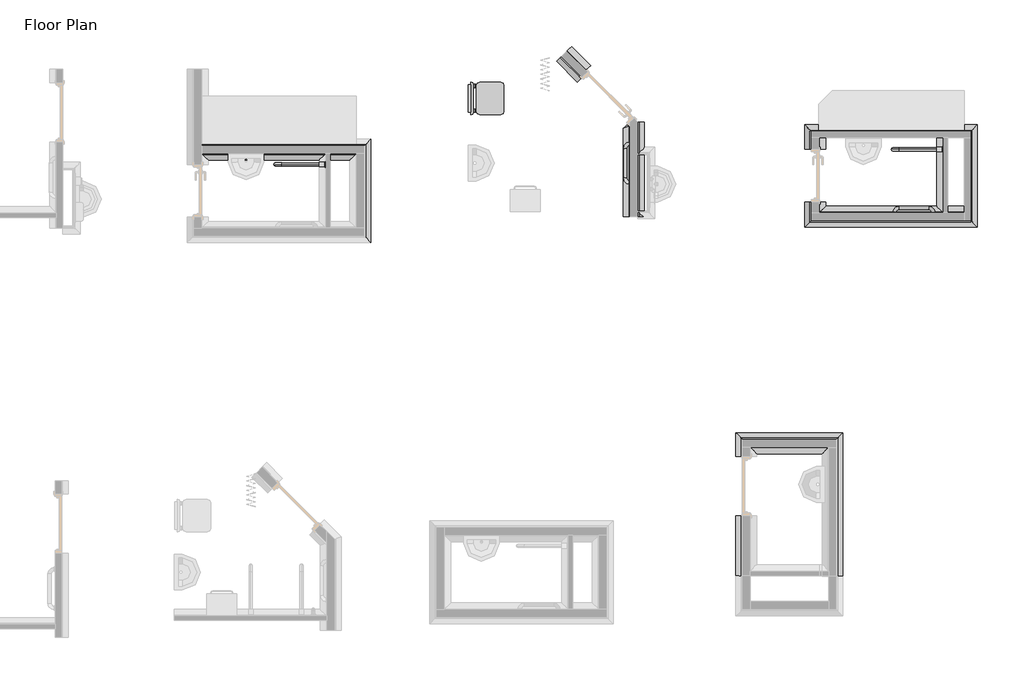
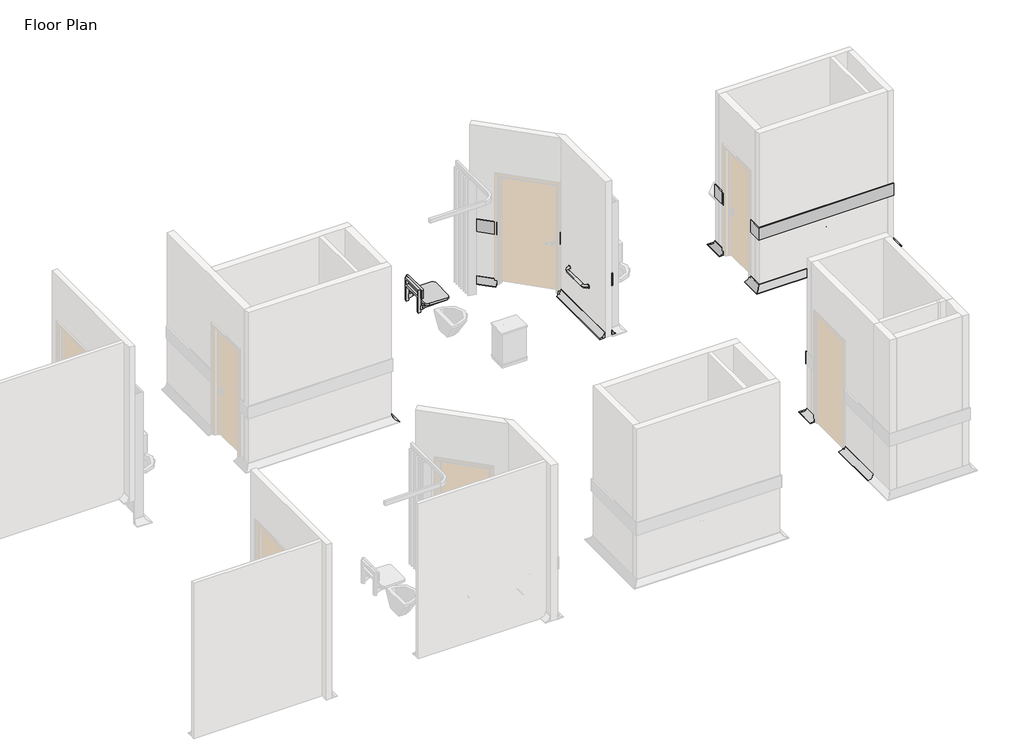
# One storey, part 4 of 4: 28 proxies.
"""IFC4 building model written with IfcOpenShell, lengths in millimetres."""

from ifc_helpers import new_model, si_unit, point, frame, frame_2d, origin, place, context, project, spatial, polyline, circle_curve, ellipse_curve, trimmed, segment, composite_curve, outline, extrude, transform, mapped, element, save
from ifc_brep_helpers import plane_surface, revolved_surface, advanced_brep
from components import generic_models_2748bf89, generic_models_79982e2d, type_1_5029713c

model = new_model("IFC4")

# Units and contexts
model_context = context("Model", 3, world=origin())
ifc_project = project(units=[si_unit("LENGTHUNIT", "METRE", prefix="MILLI")], contexts=[model_context])

# Site, building, storey
site = spatial("IfcSite", under=ifc_project)
building = spatial("IfcBuilding", under=site)
storey = spatial("IfcBuildingStorey", under=building, Name="Floor Plan", Elevation=0.0)

# Proxies
placement = place(None, origin())
element("IfcBuildingElementProxy", 1, Name="Wall Sweeps", at=placement, inside=storey, context=model_context, shape_type="AdvancedBrep", body=[
    advanced_brep(
    [(51772.6778474, -14972.1150189, 0.0), (51672.6778474, -14872.1150189, 0.0), (51672.6778474, -14872.1150189, 10.0), (51762.6778474, -14962.1150189, 100.0), (51772.6778474, -14972.1150189, 100.0), (51772.6778474, -15233.6150189, 0.0), (51772.6778474, -15233.6150189, 100.0), (51762.6778474, -15233.6150189, 100.0), (51672.6778474, -15233.6150189, 10.0), (51672.6778474, -15233.6150189, 0.0), (51772.6778474, -15093.6150189, 0.0)],
    [
        (0, 1),
        (1, 2),
        (2, 3, ellipse_curve(frame((51672.6778474, -14872.1150189, 100.0), z_axis=(-0.707106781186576, -0.7071067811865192, 0.0), x_axis=(0.7071067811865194, -0.7071067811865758, 0.0)), 127.2792206, 90.0)),
        (3, 4),
        (4, 0),
        (5, 6),
        (6, 7),
        (7, 8, circle_curve(frame((51672.6778474, -15233.6150189, 100.0), z_axis=(0.0, 1.0, 0.0), x_axis=(-1.0, 0.0, 0.0)), 90.0)),
        (8, 9),
        (9, 5),
        (4, 6),
        (5, 10),
        (10, 0),
        (3, 7),
        (2, 8),
        (1, 9),
    ],
    [
        plane_surface(frame((51772.6778474, -14972.1150189, -304.8), z_axis=(0.707106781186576, 0.7071067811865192, 0.0), x_axis=(0.7071067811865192, -0.707106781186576, 0.0))),
        plane_surface(frame((51672.1790911, -15233.6150189, 0.0), z_axis=(0.0, -1.0, 0.0), x_axis=(0.0, 0.0, -1.0))),
        plane_surface(frame((51772.6778474, -14972.1150189, 100.0), z_axis=(1.0, 0.0, 0.0), x_axis=(0.0, -1.0, 0.0))),
        plane_surface(frame((51762.6778474, -14962.1150189, 100.0), z_axis=(0.0, 0.0, 1.0), x_axis=(0.0, -1.0, 0.0))),
        revolved_surface(polyline([(51582.6778474, -15233.6150189, 100.0), (51582.6778474, -14782.115018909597, 100.0)]), (51672.6778474, -14972.1150189, 100.0), (0.0, -1.0, 0.0)),
        plane_surface(frame((51672.6778474, -14872.1150189, 0.0), z_axis=(-1.0, 0.0, 0.0), x_axis=(0.0, -1.0, 0.0))),
        plane_surface(frame((51772.6778474, -14972.1150189, 0.0), z_axis=(0.0, 0.0, -1.0), x_axis=(0.0, -1.0, 0.0))),
    ],
    [
        (0, [[1, 2, 3, 4, 5]]),
        (1, [[6, 7, 8, 9, 10]]),
        (2, [[-5, 11, -6, 12, 13]]),
        (3, [[-4, 14, -7, -11]]),
        (4, [[-3, 15, -8, -14]]),
        (5, [[-2, 16, -9, -15]]),
        (6, [[-1, -13, -12, -10, -16]]),
    ],
),
    advanced_brep(
    [(51772.6778474, -16143.6150189, 0.0), (51672.6778474, -16143.6150189, 0.0), (51672.6778474, -16143.6150189, 10.0), (51762.6778474, -16143.6150189, 100.0), (51772.6778474, -16143.6150189, 100.0), (51772.6778474, -17067.8650189, 0.0), (51772.6778474, -17067.8650189, 100.0), (51762.6778474, -17067.8650189, 100.0), (51672.6778474, -17067.8650189, 10.0), (51672.6778474, -17067.8650189, 0.0)],
    [
        (0, 1),
        (1, 2),
        (2, 3, circle_curve(frame((51672.6778474, -16143.6150189, 100.0), z_axis=(0.0, -1.0, 0.0), x_axis=(-1.0, 0.0, 0.0)), 90.0)),
        (3, 4),
        (4, 0),
        (5, 6),
        (6, 7),
        (7, 8, circle_curve(frame((51672.6778474, -17067.8650189, 100.0), z_axis=(0.0, 1.0, 0.0), x_axis=(-1.0, 0.0, 0.0)), 90.0)),
        (8, 9),
        (9, 5),
        (0, 5),
        (9, 1),
        (8, 2),
        (7, 3),
        (6, 4),
    ],
    [
        plane_surface(frame((51672.1790911, -16143.6150189, 0.0), z_axis=(0.0, 1.0, 0.0), x_axis=(0.0, 0.0, -1.0))),
        plane_surface(frame((51772.6778474, -17067.8650189, -304.8), z_axis=(0.0, -1.0, 0.0), x_axis=(1.0, 0.0, 0.0))),
        plane_surface(frame((51772.6778474, -16143.6150189, 0.0), z_axis=(0.0, 0.0, -1.0), x_axis=(0.0, -1.0, 0.0))),
        plane_surface(frame((51672.6778474, -16143.6150189, 0.0), z_axis=(-1.0, 0.0, 0.0), x_axis=(0.0, -1.0, 0.0))),
        revolved_surface(polyline([(51582.6778474, -17067.8650189, 100.0), (51582.6778474, -16143.6150189, 100.0)]), (51672.6778474, -16143.6150189, 100.0), (0.0, -1.0, 0.0)),
        plane_surface(frame((51762.6778474, -16143.6150189, 100.0), z_axis=(0.0, 0.0, 1.0), x_axis=(0.0, -1.0, 0.0))),
        plane_surface(frame((51772.6778474, -16143.6150189, 100.0), z_axis=(1.0, 0.0, 0.0), x_axis=(0.0, -1.0, 0.0))),
    ],
    [
        (0, [[1, 2, 3, 4, 5]]),
        (1, [[6, 7, 8, 9, 10]]),
        (2, [[-1, 11, -10, 12]]),
        (3, [[-2, -12, -9, 13]]),
        (4, [[-3, -13, -8, 14]]),
        (5, [[-4, -14, -7, 15]]),
        (6, [[-5, -15, -6, -11]]),
    ],
),
])
element("IfcBuildingElementProxy", 2, Name="Wall Sweeps", at=placement, inside=storey, context=model_context, shape_type="AdvancedBrep", body=[
    advanced_brep(
    [(51772.6778474, -14972.1150189, 0.0), (51772.6778474, -14972.1150189, 100.0), (51762.6778474, -14962.1150189, 100.0), (51672.6778474, -14872.1150189, 10.0), (51672.6778474, -14872.1150189, 0.0), (53215.6778474, -14972.1150189, 0.0), (53315.6778474, -14872.1150189, 0.0), (53315.6778474, -14872.1150189, 10.0), (53225.6778474, -14962.1150189, 100.0), (53215.6778474, -14972.1150189, 100.0)],
    [
        (0, 1),
        (1, 2),
        (2, 3, ellipse_curve(frame((51672.6778474, -14872.1150189, 100.0), z_axis=(0.707106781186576, 0.7071067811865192, 0.0), x_axis=(0.7071067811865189, -0.7071067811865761, 0.0)), 127.2792206, 90.0)),
        (3, 4),
        (4, 0),
        (5, 6),
        (6, 7),
        (7, 8, ellipse_curve(frame((53315.6778474, -14872.1150189, 100.0), z_axis=(-0.7071067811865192, 0.707106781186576, 0.0), x_axis=(0.7071067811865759, 0.7071067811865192, 0.0)), 127.2792206, 90.0)),
        (8, 9),
        (9, 5),
        (0, 5),
        (9, 1),
        (8, 2),
        (7, 3),
        (6, 4),
    ],
    [
        plane_surface(frame((51772.6778474, -14972.1150189, 304.8), z_axis=(-0.707106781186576, -0.7071067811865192, 0.0), x_axis=(0.7071067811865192, -0.707106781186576, 0.0))),
        plane_surface(frame((53215.6778474, -14972.1150189, 304.8), z_axis=(0.7071067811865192, -0.707106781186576, 0.0), x_axis=(-0.707106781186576, -0.7071067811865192, 0.0))),
        plane_surface(frame((51772.6778474, -14972.1150189, 0.0), z_axis=(0.0, -1.0, 0.0), x_axis=(1.0, 0.0, 0.0))),
        plane_surface(frame((51772.6778474, -14972.1150189, 100.0), z_axis=(0.0, 0.0, 1.0), x_axis=(1.0, 0.0, 0.0))),
        revolved_surface(polyline([(53405.677847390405, -14782.1150189, 100.0), (51582.677847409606, -14782.1150189, 100.0)]), (51772.6778474, -14872.1150189, 100.0), (1.0, 0.0, 0.0)),
        plane_surface(frame((51672.6778474, -14872.1150189, 10.0), z_axis=(0.0, 1.0, 0.0), x_axis=(1.0, 0.0, 0.0))),
        plane_surface(frame((51672.6778474, -14872.1150189, 0.0), z_axis=(0.0, 0.0, -1.0), x_axis=(1.0, 0.0, 0.0))),
    ],
    [
        (0, [[1, 2, 3, 4, 5]]),
        (1, [[6, 7, 8, 9, 10]]),
        (2, [[-1, 11, -10, 12]]),
        (3, [[-2, -12, -9, 13]]),
        (4, [[-3, -13, -8, 14]]),
        (5, [[-4, -14, -7, 15]]),
        (6, [[-5, -15, -6, -11]]),
    ],
),
])
element("IfcBuildingElementProxy", 3, Name="Wall Sweeps", at=placement, inside=storey, context=model_context, shape_type="AdvancedBrep", body=[
    advanced_brep(
    [(51894.1778474, -15093.6150189, 0.0), (51994.1778474, -15193.6150189, 0.0), (51994.1778474, -15193.6150189, 10.0), (51904.1778474, -15103.6150189, 100.0), (51894.1778474, -15093.6150189, 100.0), (53094.1778474, -15093.6150189, 0.0), (53094.1778474, -15093.6150189, 100.0), (53084.1778474, -15103.6150189, 100.0), (52994.1778474, -15193.6150189, 10.0), (52994.1778474, -15193.6150189, 0.0)],
    [
        (0, 1),
        (1, 2),
        (2, 3, ellipse_curve(frame((51994.1778474, -15193.6150189, 100.0), z_axis=(0.707106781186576, 0.7071067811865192, 0.0), x_axis=(0.7071067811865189, -0.7071067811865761, 0.0)), 127.2792206, 90.0)),
        (3, 4),
        (4, 0),
        (5, 6),
        (6, 7),
        (7, 8, ellipse_curve(frame((52994.1778474, -15193.6150189, 100.0), z_axis=(-0.7071067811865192, 0.707106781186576, 0.0), x_axis=(0.7071067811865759, 0.7071067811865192, 0.0)), 127.2792206, 90.0)),
        (8, 9),
        (9, 5),
        (0, 5),
        (9, 1),
        (8, 2),
        (7, 3),
        (6, 4),
    ],
    [
        plane_surface(frame((51894.1778474, -15093.6150189, 304.8), z_axis=(-0.707106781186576, -0.7071067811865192, 0.0), x_axis=(0.7071067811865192, -0.707106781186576, 0.0))),
        plane_surface(frame((53094.1778474, -15093.6150189, 304.8), z_axis=(0.7071067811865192, -0.707106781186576, 0.0), x_axis=(-0.707106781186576, -0.7071067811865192, 0.0))),
        plane_surface(frame((51894.1778474, -15093.6150189, 0.0), z_axis=(0.0, 0.0, -1.0), x_axis=(1.0, 0.0, 0.0))),
        plane_surface(frame((51994.1778474, -15193.6150189, 0.0), z_axis=(0.0, -1.0, 0.0), x_axis=(1.0, 0.0, 0.0))),
        revolved_surface(polyline([(53084.1778474, -15283.6150189, 100.0), (51904.1778474, -15283.6150189, 100.0)]), (51894.1778474, -15193.6150189, 100.0), (1.0, 0.0, 0.0)),
        plane_surface(frame((51904.1778474, -15103.6150189, 100.0), z_axis=(0.0, 0.0, 1.0), x_axis=(1.0, 0.0, 0.0))),
        plane_surface(frame((51894.1778474, -15093.6150189, 100.0), z_axis=(0.0, 1.0, 0.0), x_axis=(1.0, 0.0, 0.0))),
    ],
    [
        (0, [[1, 2, 3, 4, 5]]),
        (1, [[6, 7, 8, 9, 10]]),
        (2, [[-1, 11, -10, 12]]),
        (3, [[-2, -12, -9, 13]]),
        (4, [[-3, -13, -8, 14]]),
        (5, [[-4, -14, -7, 15]]),
        (6, [[-5, -15, -6, -11]]),
    ],
),
])
element("IfcBuildingElementProxy", 4, Name="Wall Sweeps", at=placement, inside=storey, context=model_context, shape_type="SweptSolid", body=[
    extrude(outline(polyline([(51772.6778474, -14972.1150189), (51753.6778474, -14953.1150189), (53234.6778474, -14953.1150189), (53215.6778474, -14972.1150189), (51772.6778474, -14972.1150189)])), frame((0.0, 0.0, 965.0), z_axis=(0.0, 0.0, 1.0), x_axis=(1.0, 0.0, 0.0)), (0.0, 0.0, 1.0), 235.0),
])
element("IfcBuildingElementProxy", 5, Name="Wall Sweeps", at=placement, inside=storey, context=model_context, shape_type="AdvancedBrep", body=[
    advanced_brep(
    [(53215.6778474, -17073.6150189, 0.0), (53315.6778474, -17073.6150189, 0.0), (53315.6778474, -17073.6150189, 10.0), (53225.6778474, -17073.6150189, 100.0), (53215.6778474, -17073.6150189, 100.0), (53215.6778474, -14972.1150189, 0.0), (53215.6778474, -14972.1150189, 100.0), (53225.6778474, -14962.1150189, 100.0), (53315.6778474, -14872.1150189, 10.0), (53315.6778474, -14872.1150189, 0.0), (53215.6778474, -15093.6150189, 0.0)],
    [
        (0, 1),
        (1, 2),
        (2, 3, circle_curve(frame((53315.6778474, -17073.6150189, 100.0), z_axis=(0.0, 1.0, 0.0), x_axis=(1.0, 0.0, 0.0)), 90.0)),
        (3, 4),
        (4, 0),
        (5, 6),
        (6, 7),
        (7, 8, ellipse_curve(frame((53315.6778474, -14872.1150189, 100.0), z_axis=(0.7071067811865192, -0.707106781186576, 0.0), x_axis=(0.707106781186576, 0.7071067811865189, 0.0)), 127.2792206, 90.0)),
        (8, 9),
        (9, 5),
        (0, 10),
        (10, 5),
        (9, 1),
        (8, 2),
        (7, 3),
        (6, 4),
    ],
    [
        plane_surface(frame((53215.6778474, -17073.6150189, 304.8), z_axis=(0.0, -1.0, 0.0), x_axis=(1.0, 0.0, 0.0))),
        plane_surface(frame((53215.6778474, -14972.1150189, -304.8), z_axis=(-0.7071067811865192, 0.707106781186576, 0.0), x_axis=(-0.707106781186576, -0.7071067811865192, 0.0))),
        plane_surface(frame((53215.6778474, -17073.6150189, 0.0), z_axis=(0.0, 0.0, -1.0), x_axis=(0.0, 1.0, 0.0))),
        plane_surface(frame((53315.6778474, -17073.6150189, 0.0), z_axis=(1.0, 0.0, 0.0), x_axis=(0.0, 1.0, 0.0))),
        revolved_surface(polyline([(53405.6778474, -14782.115018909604, 100.0), (53405.6778474, -17073.6150189, 100.0)]), (53315.6778474, -17073.6150189, 100.0), (0.0, 1.0, 0.0)),
        plane_surface(frame((53225.6778474, -17073.6150189, 100.0), z_axis=(0.0, 0.0, 1.0), x_axis=(0.0, 1.0, 0.0))),
        plane_surface(frame((53215.6778474, -17073.6150189, 100.0), z_axis=(-1.0, 0.0, 0.0), x_axis=(0.0, 1.0, 0.0))),
    ],
    [
        (0, [[1, 2, 3, 4, 5]]),
        (1, [[6, 7, 8, 9, 10]]),
        (2, [[-1, 11, 12, -10, 13]]),
        (3, [[-2, -13, -9, 14]]),
        (4, [[-3, -14, -8, 15]]),
        (5, [[-4, -15, -7, 16]]),
        (6, [[-5, -16, -6, -12, -11]]),
    ],
),
])
element("IfcBuildingElementProxy", 6, Name="Wall Sweeps", at=placement, inside=storey, context=model_context, shape_type="SweptSolid", body=[
    extrude(outline(composite_curve([segment(polyline([(0.0, 50168.9980708), (0.0, 50268.9980708), (10.0, 50268.9980708)]), True, "CONTINUOUS"), segment(trimmed(circle_curve(frame_2d((100.0, 50268.9980708)), 90.0), [point((10.0, 50268.9980708))], [point((100.0, 50178.9980708))], True, "CARTESIAN"), True, "CONTINUOUS"), segment(polyline([(100.0, 50178.9980708), (100.0, 50168.9980708), (0.0, 50168.9980708)]), True, "CONTINUOUS")], self_intersect=False)), frame((0.0, -11553.3684808, 0.0), z_axis=(0.0, 1.0, 0.0), x_axis=(0.0, 0.0, 1.0)), (0.0, 0.0, 1.0), 1453.1634739),
])
element("IfcBuildingElementProxy", 7, Name="Wall Sweeps", at=placement, inside=storey, context=model_context, shape_type="AdvancedBrep", body=[
    advanced_brep(
    [(50047.4980708, -10150.5319547, 0.0), (49947.4980708, -10191.9533109, 0.0), (49947.4980708, -10191.9533109, 10.0), (50037.4980708, -10154.6740903, 100.0), (50047.4980708, -10150.5319547, 100.0), (50047.4980708, -11553.3684808, 0.0), (50047.4980708, -11553.3684808, 100.0), (50037.4980708, -11553.3684808, 100.0), (49947.4980708, -11553.3684808, 10.0), (49947.4980708, -11553.3684808, 0.0)],
    [
        (0, 1),
        (1, 2),
        (2, 3, ellipse_curve(frame((49947.4980708, -10191.9533109, 100.0), z_axis=(0.3826834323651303, -0.92387953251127, 0.0), x_axis=(-0.92387953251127, -0.3826834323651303, 0.0)), 97.415298, 90.0)),
        (3, 4),
        (4, 0),
        (5, 6),
        (6, 7),
        (7, 8, circle_curve(frame((49947.4980708, -11553.3684808, 100.0), z_axis=(0.0, 1.0, 0.0), x_axis=(-1.0, 0.0, 0.0)), 90.0)),
        (8, 9),
        (9, 5),
        (0, 5),
        (9, 1),
        (8, 2),
        (7, 3),
        (6, 4),
    ],
    [
        plane_surface(frame((50047.4980708, -10150.5319547, 304.8), z_axis=(-0.3826834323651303, 0.92387953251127, 0.0), x_axis=(-0.92387953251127, -0.3826834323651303, 0.0))),
        plane_surface(frame((49946.9993146, -11553.3684808, 0.0), z_axis=(0.0, -1.0, 0.0), x_axis=(0.0, 0.0, -1.0))),
        plane_surface(frame((50047.4980708, -10150.5319547, 0.0), z_axis=(0.0, 0.0, -1.0), x_axis=(0.0, -1.0, 0.0))),
        plane_surface(frame((49947.4980708, -10191.9533109, 0.0), z_axis=(-1.0, 0.0, 0.0), x_axis=(0.0, -1.0, 0.0))),
        revolved_surface(polyline([(49857.4980708, -11553.3684808, 100.0), (49857.4980708, -10154.674090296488, 100.0)]), (49947.4980708, -10150.5319547, 100.0), (0.0, -1.0, 0.0)),
        plane_surface(frame((50037.4980708, -10154.6740903, 100.0), z_axis=(0.0, 0.0, 1.0), x_axis=(0.0, -1.0, 0.0))),
        plane_surface(frame((50047.4980708, -10150.5319547, 100.0), z_axis=(1.0, 0.0, 0.0), x_axis=(0.0, -1.0, 0.0))),
    ],
    [
        (0, [[1, 2, 3, 4, 5]]),
        (1, [[6, 7, 8, 9, 10]]),
        (2, [[-1, 11, -10, 12]]),
        (3, [[-2, -12, -9, 13]]),
        (4, [[-3, -13, -8, 14]]),
        (5, [[-4, -14, -7, 15]]),
        (6, [[-5, -15, -6, -11]]),
    ],
),
])
element("IfcBuildingElementProxy", 8, Name="Wall Sweeps", at=placement, inside=storey, context=model_context, shape_type="SweptSolid", body=[
    extrude(outline(polyline([(50168.9980708, -10100.2050069), (50187.9980708, -10100.2050069), (50187.9980708, -11553.3684808), (50168.9980708, -11553.3684808), (50168.9980708, -10100.2050069)])), frame((0.0, 0.0, 965.0), z_axis=(0.0, 0.0, 1.0), x_axis=(1.0, 0.0, 0.0)), (0.0, 0.0, 1.0), 235.0),
])
element("IfcBuildingElementProxy", 9, Name="Wall Sweeps", at=placement, inside=storey, context=model_context, shape_type="SweptSolid", body=[
    extrude(outline(composite_curve([segment(polyline([(0.0, 100.4987562), (0.0, 0.4987562), (-10.0, 0.4987562)]), True, "CONTINUOUS"), segment(trimmed(circle_curve(frame_2d((-100.0, 0.4987562)), 90.0), [point((-10.0, 0.4987562))], [point((-100.0, 90.4987562))], True, "CARTESIAN"), True, "CONTINUOUS"), segment(polyline([(-100.0, 90.4987562), (-100.0, 100.4987562), (0.0, 100.4987562)]), True, "CONTINUOUS")], self_intersect=False)), frame((49310.3318049, -9413.3656888, 100.4987562), z_axis=(-0.707106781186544, 0.7071067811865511, 0.0), x_axis=(0.7071067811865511, 0.707106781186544, 0.0)), (0.0, 0.0, 1.0), 448.362934),
    extrude(outline(composite_curve([segment(polyline([(0.0, 100.4987562), (0.0, 0.4987562), (-10.0, 0.4987562)]), True, "CONTINUOUS"), segment(trimmed(circle_curve(frame_2d((-100.0, 0.4987562)), 90.0), [point((-10.0, 0.4987562))], [point((-100.0, 90.4987562))], True, "CARTESIAN"), True, "CONTINUOUS"), segment(polyline([(-100.0, 90.4987562), (-100.0, 100.4987562), (0.0, 100.4987562)]), True, "CONTINUOUS")], self_intersect=False)), frame((50047.4980708, -10150.5319547, 100.4987562), z_axis=(-0.7071067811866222, 0.707106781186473, 0.0), x_axis=(0.707106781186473, 0.7071067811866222, 0.0)), (0.0, 0.0, 1.0), 32.510531),
])
element("IfcBuildingElementProxy", 10, Name="Wall Sweeps", at=placement, inside=storey, context=model_context, shape_type="SweptSolid", body=[
    extrude(outline(composite_curve([segment(polyline([(0.0, 100.4987562), (100.0, 100.4987562), (100.0, 90.4987562)]), True, "CONTINUOUS"), segment(trimmed(circle_curve(frame_2d((100.0, 0.4987562)), 90.0), [point((100.0, 90.4987562))], [point((10.0, 0.4987562))], True, "CARTESIAN"), True, "CONTINUOUS"), segment(polyline([(10.0, 0.4987562), (0.0, 0.4987562), (0.0, 100.4987562)]), True, "CONTINUOUS")], self_intersect=False)), frame((49371.4965415, -9302.7034775, 100.4987562), z_axis=(-0.707106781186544, 0.7071067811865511, 0.0), x_axis=(0.7071067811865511, 0.707106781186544, 0.0)), (0.0, 0.0, 1.0), 413.362934),
])
element("IfcBuildingElementProxy", 11, Name="Wall Sweeps", at=placement, inside=storey, context=model_context, shape_type="SweptSolid", body=[
    extrude(outline(polyline([(49310.3318049, -9413.3656888), (49296.8967761, -9426.8007176), (48979.856305, -9109.7602466), (48993.2913339, -9096.3252177), (49310.3318049, -9413.3656888)])), frame((0.0, 0.0, 965.0), z_axis=(0.0, 0.0, 1.0), x_axis=(1.0, 0.0, 0.0)), (0.0, 0.0, 1.0), 235.0),
    extrude(outline(polyline([(50047.4980708, -10150.5319547), (50034.063042, -10163.9669835), (50011.0746251, -10140.9785666), (50024.5096539, -10127.5435378), (50047.4980708, -10150.5319547)])), frame((0.0, 0.0, 965.0), z_axis=(0.0, 0.0, 1.0), x_axis=(1.0, 0.0, 0.0)), (0.0, 0.0, 1.0), 235.0),
])
element("IfcBuildingElementProxy", 12, Name="Wall Sweeps", at=placement, inside=storey, context=model_context, shape_type="AdvancedBrep", body=[
    advanced_brep(
    [(45848.96766, -10586.8684808, 0.0), (45848.96766, -10586.8684808, 100.0), (45838.96766, -10596.8684808, 100.0), (45748.96766, -10686.8684808, 10.0), (45748.96766, -10686.8684808, 0.0), (43475.46766, -10586.8684808, 0.0), (43475.46766, -10686.8684808, 0.0), (43475.46766, -10686.8684808, 10.0), (43475.46766, -10596.8684808, 100.0), (43475.46766, -10586.8684808, 100.0)],
    [
        (0, 1),
        (1, 2),
        (2, 3, ellipse_curve(frame((45748.96766, -10686.8684808, 100.0), z_axis=(-0.7071067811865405, 0.7071067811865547, 0.0), x_axis=(-0.7071067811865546, -0.7071067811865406, 0.0)), 127.2792206, 90.0)),
        (3, 4),
        (4, 0),
        (5, 6),
        (6, 7),
        (7, 8, circle_curve(frame((43475.46766, -10686.8684808, 100.0), z_axis=(1.0, 0.0, 0.0), x_axis=(0.0, -1.0, 0.0)), 90.0)),
        (8, 9),
        (9, 5),
        (4, 6),
        (5, 0),
        (3, 7),
        (2, 8),
        (1, 9),
    ],
    [
        plane_surface(frame((45848.96766, -10586.8684808, -304.8), z_axis=(0.7071067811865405, -0.7071067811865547, 0.0), x_axis=(-0.7071067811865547, -0.7071067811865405, 0.0))),
        plane_surface(frame((43475.46766, -10586.8684808, -100.4987562), z_axis=(-1.0, 0.0, 0.0), x_axis=(0.0, -1.0, 0.0))),
        plane_surface(frame((45748.96766, -10686.8684808, 0.0), z_axis=(0.0, 0.0, -1.0), x_axis=(-1.0, 0.0, 0.0))),
        plane_surface(frame((45748.96766, -10686.8684808, 10.0), z_axis=(0.0, -1.0, 0.0), x_axis=(-1.0, 0.0, 0.0))),
        revolved_surface(polyline([(43475.46766, -10776.8684808, 100.0), (45838.96766, -10776.8684808, 100.0)]), (45848.96766, -10686.8684808, 100.0), (-1.0, 0.0, 0.0)),
        plane_surface(frame((45848.96766, -10586.8684808, 100.0), z_axis=(0.0, 0.0, 1.0), x_axis=(-1.0, 0.0, 0.0))),
        plane_surface(frame((45848.96766, -10586.8684808, 0.0), z_axis=(0.0, 1.0, 0.0), x_axis=(-1.0, 0.0, 0.0))),
    ],
    [
        (0, [[1, 2, 3, 4, 5]]),
        (1, [[6, 7, 8, 9, 10]]),
        (2, [[-5, 11, -6, 12]]),
        (3, [[-4, 13, -7, -11]]),
        (4, [[-3, 14, -8, -13]]),
        (5, [[-2, 15, -9, -14]]),
        (6, [[-1, -12, -10, -15]]),
    ],
),
])
element("IfcBuildingElementProxy", 13, Name="Wall Sweeps", at=placement, inside=storey, context=model_context, shape_type="SweptSolid", body=[
    extrude(outline(polyline([(45989.46766, -10446.3684808), (45970.46766, -10465.3684808), (43475.46766, -10465.3684808), (43475.46766, -10446.3684808), (45989.46766, -10446.3684808)])), frame((0.0, 0.0, 965.0), z_axis=(0.0, 0.0, 1.0), x_axis=(1.0, 0.0, 0.0)), (0.0, 0.0, 1.0), 235.0),
])
element("IfcBuildingElementProxy", 14, Name="Wall Sweeps", at=placement, inside=storey, context=model_context, shape_type="AdvancedBrep", body=[
    advanced_brep(
    [(45970.46766, -10465.3684808, 0.0), (45970.46766, -10465.3684808, 100.0), (45980.46766, -10455.3684808, 100.0), (46070.46766, -10365.3684808, 10.0), (46070.46766, -10365.3684808, 0.0), (45970.46766, -11847.6184808, 0.0), (46070.46766, -11947.6184808, 0.0), (46070.46766, -11947.6184808, 10.0), (45980.46766, -11857.6184808, 100.0), (45970.46766, -11847.6184808, 100.0), (45970.46766, -10586.8684808, 0.0), (45970.46766, -11726.1184808, 0.0)],
    [
        (0, 1),
        (1, 2),
        (2, 3, ellipse_curve(frame((46070.46766, -10365.3684808, 100.0), z_axis=(0.7071067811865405, -0.7071067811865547, 0.0), x_axis=(-0.7071067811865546, -0.7071067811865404, 0.0)), 127.2792206, 90.0)),
        (3, 4),
        (4, 0),
        (5, 6),
        (6, 7),
        (7, 8, ellipse_curve(frame((46070.46766, -11947.6184808, 100.0), z_axis=(0.7071067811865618, 0.7071067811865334, 0.0), x_axis=(0.7071067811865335, -0.7071067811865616, 0.0)), 127.2792206, 90.0)),
        (8, 9),
        (9, 5),
        (0, 10),
        (10, 11),
        (11, 5),
        (9, 1),
        (8, 2),
        (7, 3),
        (6, 4),
    ],
    [
        plane_surface(frame((45970.46766, -10465.3684808, 304.8), z_axis=(-0.7071067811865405, 0.7071067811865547, 0.0), x_axis=(-0.7071067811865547, -0.7071067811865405, 0.0))),
        plane_surface(frame((45970.46766, -11847.6184808, 304.8), z_axis=(-0.7071067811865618, -0.7071067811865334, 0.0), x_axis=(-0.7071067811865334, 0.7071067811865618, 0.0))),
        plane_surface(frame((45970.46766, -10465.3684808, 0.0), z_axis=(-1.0, 0.0, 0.0), x_axis=(0.0, -1.0, 0.0))),
        plane_surface(frame((45970.46766, -10465.3684808, 100.0), z_axis=(0.0, 0.0, 1.0), x_axis=(0.0, -1.0, 0.0))),
        revolved_surface(polyline([(46160.46766, -12037.6184807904, 100.0), (46160.46766, -10275.368480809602, 100.0)]), (46070.46766, -10465.3684808, 100.0), (0.0, -1.0, 0.0)),
        plane_surface(frame((46070.46766, -10365.3684808, 10.0), z_axis=(1.0, 0.0, 0.0), x_axis=(0.0, -1.0, 0.0))),
        plane_surface(frame((46070.46766, -10365.3684808, 0.0), z_axis=(0.0, 0.0, -1.0), x_axis=(0.0, -1.0, 0.0))),
    ],
    [
        (0, [[1, 2, 3, 4, 5]]),
        (1, [[6, 7, 8, 9, 10]]),
        (2, [[-1, 11, 12, 13, -10, 14]]),
        (3, [[-2, -14, -9, 15]]),
        (4, [[-3, -15, -8, 16]]),
        (5, [[-4, -16, -7, 17]]),
        (6, [[-5, -17, -6, -13, -12, -11]]),
    ],
),
])
element("IfcBuildingElementProxy", 15, Name="Wall Sweeps", at=placement, inside=storey, context=model_context, shape_type="AdvancedBrep", body=[
    advanced_brep(
    [(52828.2945525, -11614.1184808, 0.0), (52728.2945525, -11714.1184808, 0.0), (52728.2945525, -11714.1184808, 10.0), (52818.2945525, -11624.1184808, 100.0), (52828.2945525, -11614.1184808, 100.0), (55279.0445525, -11614.1184808, 0.0), (55279.0445525, -11614.1184808, 100.0), (55289.0445525, -11624.1184808, 100.0), (55379.0445525, -11714.1184808, 10.0), (55379.0445525, -11714.1184808, 0.0), (55179.0445525, -11614.1184808, 0.0)],
    [
        (0, 1),
        (1, 2),
        (2, 3, ellipse_curve(frame((52728.2945525, -11714.1184808, 100.0), z_axis=(0.7071067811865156, -0.7071067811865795, 0.0), x_axis=(0.7071067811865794, 0.7071067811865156, 0.0)), 127.2792206, 90.0)),
        (3, 4),
        (4, 0),
        (5, 6),
        (6, 7),
        (7, 8, ellipse_curve(frame((55379.0445525, -11714.1184808, 100.0), z_axis=(-0.7071067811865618, -0.7071067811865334, 0.0), x_axis=(0.7071067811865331, -0.7071067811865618, 0.0)), 127.2792206, 90.0)),
        (8, 9),
        (9, 5),
        (4, 6),
        (5, 10),
        (10, 0),
        (3, 7),
        (2, 8),
        (1, 9),
    ],
    [
        plane_surface(frame((52828.2945525, -11614.1184808, -304.8), z_axis=(-0.7071067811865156, 0.7071067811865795, 0.0), x_axis=(0.7071067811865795, 0.7071067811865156, 0.0))),
        plane_surface(frame((55279.0445525, -11614.1184808, -304.8), z_axis=(0.7071067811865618, 0.7071067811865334, 0.0), x_axis=(-0.7071067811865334, 0.7071067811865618, 0.0))),
        plane_surface(frame((52828.2945525, -11614.1184808, 100.0), z_axis=(0.0, 1.0, 0.0), x_axis=(1.0, 0.0, 0.0))),
        plane_surface(frame((52818.2945525, -11624.1184808, 100.0), z_axis=(0.0, 0.0, 1.0), x_axis=(1.0, 0.0, 0.0))),
        revolved_surface(polyline([(55469.0445524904, -11804.1184808, 100.0), (52638.2945525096, -11804.1184808, 100.0)]), (52828.2945525, -11714.1184808, 100.0), (1.0, 0.0, 0.0)),
        plane_surface(frame((52728.2945525, -11714.1184808, 0.0), z_axis=(0.0, -1.0, 0.0), x_axis=(1.0, 0.0, 0.0))),
        plane_surface(frame((52828.2945525, -11614.1184808, 0.0), z_axis=(0.0, 0.0, -1.0), x_axis=(1.0, 0.0, 0.0))),
    ],
    [
        (0, [[1, 2, 3, 4, 5]]),
        (1, [[6, 7, 8, 9, 10]]),
        (2, [[-5, 11, -6, 12, 13]]),
        (3, [[-4, 14, -7, -11]]),
        (4, [[-3, 15, -8, -14]]),
        (5, [[-2, 16, -9, -15]]),
        (6, [[-1, -13, -12, -10, -16]]),
    ],
),
])
element("IfcBuildingElementProxy", 16, Name="Wall Sweeps", at=placement, inside=storey, context=model_context, shape_type="AdvancedBrep", body=[
    advanced_brep(
    [(52949.7945525, -11492.6184808, 0.0), (52949.7945525, -11492.6184808, 100.0), (52959.7945525, -11482.6184808, 100.0), (53049.7945525, -11392.6184808, 10.0), (53049.7945525, -11392.6184808, 0.0), (55179.0445525, -11492.6184808, 0.0), (55179.0445525, -11392.6184808, 0.0), (55179.0445525, -11392.6184808, 10.0), (55179.0445525, -11482.6184808, 100.0), (55179.0445525, -11492.6184808, 100.0)],
    [
        (0, 1),
        (1, 2),
        (2, 3, ellipse_curve(frame((53049.7945525, -11392.6184808, 100.0), z_axis=(0.7071067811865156, -0.7071067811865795, 0.0), x_axis=(0.7071067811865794, 0.7071067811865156, 0.0)), 127.2792206, 90.0)),
        (3, 4),
        (4, 0),
        (5, 6),
        (6, 7),
        (7, 8, circle_curve(frame((55179.0445525, -11392.6184808, 100.0), z_axis=(-1.0, 0.0, 0.0), x_axis=(0.0, 1.0, 0.0)), 90.0)),
        (8, 9),
        (9, 5),
        (4, 6),
        (5, 0),
        (3, 7),
        (2, 8),
        (1, 9),
    ],
    [
        plane_surface(frame((52949.7945525, -11492.6184808, -304.8), z_axis=(-0.7071067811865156, 0.7071067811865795, 0.0), x_axis=(0.7071067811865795, 0.7071067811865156, 0.0))),
        plane_surface(frame((55179.0445525, -11492.6184808, -100.4987562), z_axis=(1.0, 0.0, 0.0), x_axis=(0.0, 1.0, 0.0))),
        plane_surface(frame((53049.7945525, -11392.6184808, 0.0), z_axis=(0.0, 0.0, -1.0), x_axis=(1.0, 0.0, 0.0))),
        plane_surface(frame((53049.7945525, -11392.6184808, 10.0), z_axis=(0.0, 1.0, 0.0), x_axis=(1.0, 0.0, 0.0))),
        revolved_surface(polyline([(55179.0445525, -11302.6184808, 100.0), (52959.7945525, -11302.6184808, 100.0)]), (52949.7945525, -11392.6184808, 100.0), (1.0, 0.0, 0.0)),
        plane_surface(frame((52949.7945525, -11492.6184808, 100.0), z_axis=(0.0, 0.0, 1.0), x_axis=(1.0, 0.0, 0.0))),
        plane_surface(frame((52949.7945525, -11492.6184808, 0.0), z_axis=(0.0, -1.0, 0.0), x_axis=(1.0, 0.0, 0.0))),
    ],
    [
        (0, [[1, 2, 3, 4, 5]]),
        (1, [[6, 7, 8, 9, 10]]),
        (2, [[-5, 11, -6, 12]]),
        (3, [[-4, 13, -7, -11]]),
        (4, [[-3, 14, -8, -13]]),
        (5, [[-2, 15, -9, -14]]),
        (6, [[-1, -12, -10, -15]]),
    ],
),
])
element("IfcBuildingElementProxy", 17, Name="Wall Sweeps", at=placement, inside=storey, context=model_context, shape_type="SweptSolid", body=[
    extrude(outline(polyline([(52809.2945525, -11633.1184808), (52828.2945525, -11614.1184808), (55279.0445525, -11614.1184808), (55279.0445525, -11633.1184808), (52809.2945525, -11633.1184808)])), frame((0.0, 0.0, 965.0), z_axis=(0.0, 0.0, 1.0), x_axis=(1.0, 0.0, 0.0)), (0.0, 0.0, 1.0), 235.0),
])
element("IfcBuildingElementProxy", 18, Name="Wall Sweeps", at=placement, inside=storey, context=model_context, shape_type="AdvancedBrep", body=[
    advanced_brep(
    [(52828.2945525, -10517.9934808, 0.0), (52828.2945525, -10517.9934808, 100.0), (52818.2945525, -10517.9934808, 100.0), (52728.2945525, -10517.9934808, 10.0), (52728.2945525, -10517.9934808, 0.0), (52828.2945525, -10242.6184808, 0.0), (52728.2945525, -10142.6184808, 0.0), (52728.2945525, -10142.6184808, 10.0), (52818.2945525, -10232.6184808, 100.0), (52828.2945525, -10242.6184808, 100.0), (52828.2945525, -10342.6184808, 0.0)],
    [
        (0, 1),
        (1, 2),
        (2, 3, circle_curve(frame((52728.2945525, -10517.9934808, 100.0), z_axis=(0.0, 1.0, 0.0), x_axis=(-1.0, 0.0, 0.0)), 90.0)),
        (3, 4),
        (4, 0),
        (5, 6),
        (6, 7),
        (7, 8, ellipse_curve(frame((52728.2945525, -10142.6184808, 100.0), z_axis=(-0.7071067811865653, -0.7071067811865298, 0.0), x_axis=(-0.7071067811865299, 0.7071067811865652, 0.0)), 127.2792206, 90.0)),
        (8, 9),
        (9, 5),
        (0, 10),
        (10, 5),
        (9, 1),
        (8, 2),
        (7, 3),
        (6, 4),
    ],
    [
        plane_surface(frame((52727.7957963, -10517.9934808, 0.0), z_axis=(0.0, -1.0, 0.0), x_axis=(0.0, 0.0, 1.0))),
        plane_surface(frame((52828.2945525, -10242.6184808, 304.8), z_axis=(0.7071067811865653, 0.7071067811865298, 0.0), x_axis=(0.7071067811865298, -0.7071067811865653, 0.0))),
        plane_surface(frame((52828.2945525, -10517.9934808, 0.0), z_axis=(1.0, 0.0, 0.0), x_axis=(0.0, 1.0, 0.0))),
        plane_surface(frame((52828.2945525, -10517.9934808, 100.0), z_axis=(0.0, 0.0, 1.0), x_axis=(0.0, 1.0, 0.0))),
        revolved_surface(polyline([(52638.2945525, -10052.618480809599, 100.0), (52638.2945525, -10517.9934808, 100.0)]), (52728.2945525, -10517.9934808, 100.0), (0.0, 1.0, 0.0)),
        plane_surface(frame((52728.2945525, -10517.9934808, 10.0), z_axis=(-1.0, 0.0, 0.0), x_axis=(0.0, 1.0, 0.0))),
        plane_surface(frame((52728.2945525, -10517.9934808, 0.0), z_axis=(0.0, 0.0, -1.0), x_axis=(0.0, 1.0, 0.0))),
    ],
    [
        (0, [[1, 2, 3, 4, 5]]),
        (1, [[6, 7, 8, 9, 10]]),
        (2, [[-1, 11, 12, -10, 13]]),
        (3, [[-2, -13, -9, 14]]),
        (4, [[-3, -14, -8, 15]]),
        (5, [[-4, -15, -7, 16]]),
        (6, [[-5, -16, -6, -12, -11]]),
    ],
),
    advanced_brep(
    [(52828.2945525, -11614.1184808, 0.0), (52828.2945525, -11614.1184808, 100.0), (52818.2945525, -11624.1184808, 100.0), (52728.2945525, -11714.1184808, 10.0), (52728.2945525, -11714.1184808, 0.0), (52828.2945525, -11327.9934808, 0.0), (52728.2945525, -11327.9934808, 0.0), (52728.2945525, -11327.9934808, 10.0), (52818.2945525, -11327.9934808, 100.0), (52828.2945525, -11327.9934808, 100.0), (52828.2945525, -11492.6184808, 0.0)],
    [
        (0, 1),
        (1, 2),
        (2, 3, ellipse_curve(frame((52728.2945525, -11714.1184808, 100.0), z_axis=(-0.7071067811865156, 0.7071067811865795, 0.0), x_axis=(0.7071067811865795, 0.7071067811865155, 0.0)), 127.2792206, 90.0)),
        (3, 4),
        (4, 0),
        (5, 6),
        (6, 7),
        (7, 8, circle_curve(frame((52728.2945525, -11327.9934808, 100.0), z_axis=(0.0, -1.0, 0.0), x_axis=(-1.0, 0.0, 0.0)), 90.0)),
        (8, 9),
        (9, 5),
        (0, 10),
        (10, 5),
        (9, 1),
        (8, 2),
        (7, 3),
        (6, 4),
    ],
    [
        plane_surface(frame((52828.2945525, -11614.1184808, 304.8), z_axis=(0.7071067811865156, -0.7071067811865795, 0.0), x_axis=(0.7071067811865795, 0.7071067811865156, 0.0))),
        plane_surface(frame((52727.7957963, -11327.9934808, 0.0), z_axis=(0.0, 1.0, 0.0), x_axis=(0.0, 0.0, 1.0))),
        plane_surface(frame((52828.2945525, -11614.1184808, 0.0), z_axis=(1.0, 0.0, 0.0), x_axis=(0.0, 1.0, 0.0))),
        plane_surface(frame((52828.2945525, -11614.1184808, 100.0), z_axis=(0.0, 0.0, 1.0), x_axis=(0.0, 1.0, 0.0))),
        revolved_surface(polyline([(52638.2945525, -11327.9934808, 100.0), (52638.2945525, -11804.118480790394, 100.0)]), (52728.2945525, -11614.1184808, 100.0), (0.0, 1.0, 0.0)),
        plane_surface(frame((52728.2945525, -11714.1184808, 10.0), z_axis=(-1.0, 0.0, 0.0), x_axis=(0.0, 1.0, 0.0))),
        plane_surface(frame((52728.2945525, -11714.1184808, 0.0), z_axis=(0.0, 0.0, -1.0), x_axis=(0.0, 1.0, 0.0))),
    ],
    [
        (0, [[1, 2, 3, 4, 5]]),
        (1, [[6, 7, 8, 9, 10]]),
        (2, [[-1, 11, 12, -10, 13]]),
        (3, [[-2, -13, -9, 14]]),
        (4, [[-3, -14, -8, 15]]),
        (5, [[-4, -15, -7, 16]]),
        (6, [[-5, -16, -6, -12, -11]]),
    ],
),
])
element("IfcBuildingElementProxy", 19, Name="Wall Sweeps", at=placement, inside=storey, context=model_context, shape_type="AdvancedBrep", body=[
    advanced_brep(
    [(52949.7945525, -11492.6184808, 0.0), (53049.7945525, -11392.6184808, 0.0), (53049.7945525, -11392.6184808, 10.0), (52959.7945525, -11482.6184808, 100.0), (52949.7945525, -11492.6184808, 100.0), (52949.7945525, -11327.9934808, 0.0), (52949.7945525, -11327.9934808, 100.0), (52959.7945525, -11327.9934808, 100.0), (53049.7945525, -11327.9934808, 10.0), (53049.7945525, -11327.9934808, 0.0)],
    [
        (0, 1),
        (1, 2),
        (2, 3, ellipse_curve(frame((53049.7945525, -11392.6184808, 100.0), z_axis=(-0.7071067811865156, 0.7071067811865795, 0.0), x_axis=(0.7071067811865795, 0.7071067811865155, 0.0)), 127.2792206, 90.0)),
        (3, 4),
        (4, 0),
        (5, 6),
        (6, 7),
        (7, 8, circle_curve(frame((53049.7945525, -11327.9934808, 100.0), z_axis=(0.0, -1.0, 0.0), x_axis=(1.0, 0.0, 0.0)), 90.0)),
        (8, 9),
        (9, 5),
        (0, 5),
        (9, 1),
        (8, 2),
        (7, 3),
        (6, 4),
    ],
    [
        plane_surface(frame((52949.7945525, -11492.6184808, 304.8), z_axis=(0.7071067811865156, -0.7071067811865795, 0.0), x_axis=(0.7071067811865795, 0.7071067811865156, 0.0))),
        plane_surface(frame((52849.2957963, -11327.9934808, 0.0), z_axis=(0.0, 1.0, 0.0), x_axis=(0.0, 0.0, 1.0))),
        plane_surface(frame((52949.7945525, -11492.6184808, 0.0), z_axis=(0.0, 0.0, -1.0), x_axis=(0.0, 1.0, 0.0))),
        plane_surface(frame((53049.7945525, -11392.6184808, 0.0), z_axis=(1.0, 0.0, 0.0), x_axis=(0.0, 1.0, 0.0))),
        revolved_surface(polyline([(53139.7945525, -11302.618480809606, 100.0), (53139.7945525, -11482.6184808, 100.0)]), (53049.7945525, -11492.6184808, 100.0), (0.0, 1.0, 0.0)),
        plane_surface(frame((52959.7945525, -11482.6184808, 100.0), z_axis=(0.0, 0.0, 1.0), x_axis=(0.0, 1.0, 0.0))),
        plane_surface(frame((52949.7945525, -11492.6184808, 100.0), z_axis=(-1.0, 0.0, 0.0), x_axis=(0.0, 1.0, 0.0))),
    ],
    [
        (0, [[1, 2, 3, 4, 5]]),
        (1, [[6, 7, 8, 9, 10]]),
        (2, [[-1, 11, -10, 12]]),
        (3, [[-2, -12, -9, 13]]),
        (4, [[-3, -13, -8, 14]]),
        (5, [[-4, -14, -7, 15]]),
        (6, [[-5, -15, -6, -11]]),
    ],
),
    advanced_brep(
    [(52949.7945525, -10517.9934808, 0.0), (53049.7945525, -10517.9934808, 0.0), (53049.7945525, -10517.9934808, 10.0), (52959.7945525, -10517.9934808, 100.0), (52949.7945525, -10517.9934808, 100.0), (52949.7945525, -10342.6184808, 0.0), (52949.7945525, -10342.6184808, 100.0), (52959.7945525, -10342.6184808, 100.0), (53049.7945525, -10342.6184808, 10.0), (53049.7945525, -10342.6184808, 0.0)],
    [
        (0, 1),
        (1, 2),
        (2, 3, circle_curve(frame((53049.7945525, -10517.9934808, 100.0), z_axis=(0.0, 1.0, 0.0), x_axis=(1.0, 0.0, 0.0)), 90.0)),
        (3, 4),
        (4, 0),
        (5, 6),
        (6, 7),
        (7, 8, circle_curve(frame((53049.7945525, -10342.6184808, 100.0), z_axis=(0.0, -1.0, 0.0), x_axis=(1.0, 0.0, 0.0)), 90.0)),
        (8, 9),
        (9, 5),
        (0, 5),
        (9, 1),
        (8, 2),
        (7, 3),
        (6, 4),
    ],
    [
        plane_surface(frame((52849.2957963, -10517.9934808, 0.0), z_axis=(0.0, -1.0, 0.0), x_axis=(0.0, 0.0, 1.0))),
        plane_surface(frame((52849.2957963, -10342.6184808, 0.0), z_axis=(0.0, 1.0, 0.0), x_axis=(0.0, 0.0, 1.0))),
        plane_surface(frame((52949.7945525, -10517.9934808, 0.0), z_axis=(0.0, 0.0, -1.0), x_axis=(0.0, 1.0, 0.0))),
        plane_surface(frame((53049.7945525, -10517.9934808, 0.0), z_axis=(1.0, 0.0, 0.0), x_axis=(0.0, 1.0, 0.0))),
        revolved_surface(polyline([(53139.7945525, -10342.6184808, 100.0), (53139.7945525, -10517.9934808, 100.0)]), (53049.7945525, -10517.9934808, 100.0), (0.0, 1.0, 0.0)),
        plane_surface(frame((52959.7945525, -10517.9934808, 100.0), z_axis=(0.0, 0.0, 1.0), x_axis=(0.0, 1.0, 0.0))),
        plane_surface(frame((52949.7945525, -10517.9934808, 100.0), z_axis=(-1.0, 0.0, 0.0), x_axis=(0.0, 1.0, 0.0))),
    ],
    [
        (0, [[1, 2, 3, 4, 5]]),
        (1, [[6, 7, 8, 9, 10]]),
        (2, [[-1, 11, -10, 12]]),
        (3, [[-2, -12, -9, 13]]),
        (4, [[-3, -13, -8, 14]]),
        (5, [[-4, -14, -7, 15]]),
        (6, [[-5, -15, -6, -11]]),
    ],
),
])
element("IfcBuildingElementProxy", 20, Name="Wall Sweeps", at=placement, inside=storey, context=model_context, shape_type="SweptSolid", body=[
    extrude(outline(polyline([(52828.2945525, -10517.9934808), (52809.2945525, -10517.9934808), (52809.2945525, -10242.6184808), (52828.2945525, -10242.6184808), (52828.2945525, -10517.9934808)])), frame((0.0, 0.0, 965.0), z_axis=(0.0, 0.0, 1.0), x_axis=(1.0, 0.0, 0.0)), (0.0, 0.0, 1.0), 235.0),
    extrude(outline(polyline([(52828.2945525, -11614.1184808), (52809.2945525, -11633.1184808), (52809.2945525, -11327.9934808), (52828.2945525, -11327.9934808), (52828.2945525, -11614.1184808)])), frame((0.0, 0.0, 965.0), z_axis=(0.0, 0.0, 1.0), x_axis=(1.0, 0.0, 0.0)), (0.0, 0.0, 1.0), 235.0),
])
element("IfcBuildingElementProxy", 21, Name="Wall Sweeps", at=placement, inside=storey, context=model_context, shape_type="SweptSolid", body=[
    extrude(outline(composite_curve([segment(polyline([(0.0, 54854.7945525), (100.0, 54854.7945525), (100.0, 54844.7945525)]), True, "CONTINUOUS"), segment(trimmed(circle_curve(frame_2d((100.0, 54754.7945525)), 90.0), [point((100.0, 54844.7945525))], [point((10.0, 54754.7945525))], True, "CARTESIAN"), True, "CONTINUOUS"), segment(polyline([(10.0, 54754.7945525), (0.0, 54754.7945525), (0.0, 54854.7945525)]), True, "CONTINUOUS")], self_intersect=False)), frame((0.0, -11492.6184808, 0.0), z_axis=(0.0, 1.0, 0.0), x_axis=(0.0, 0.0, 1.0)), (0.0, 0.0, 1.0), 1150.0),
])
element("IfcBuildingElementProxy", 22, Name="Wall Sweeps", at=placement, inside=storey, context=model_context, shape_type="AdvancedBrep", body=[
    advanced_brep(
    [(55279.0445525, -10242.6184808, 0.0), (55379.0445525, -10142.6184808, 0.0), (55379.0445525, -10142.6184808, 10.0), (55289.0445525, -10232.6184808, 100.0), (55279.0445525, -10242.6184808, 100.0), (52828.2945525, -10242.6184808, 0.0), (52828.2945525, -10242.6184808, 100.0), (52818.2945525, -10232.6184808, 100.0), (52728.2945525, -10142.6184808, 10.0), (52728.2945525, -10142.6184808, 0.0)],
    [
        (0, 1),
        (1, 2),
        (2, 3, ellipse_curve(frame((55379.0445525, -10142.6184808, 100.0), z_axis=(-0.7071067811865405, 0.7071067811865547, 0.0), x_axis=(-0.7071067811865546, -0.7071067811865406, 0.0)), 127.2792206, 90.0)),
        (3, 4),
        (4, 0),
        (5, 6),
        (6, 7),
        (7, 8, ellipse_curve(frame((52728.2945525, -10142.6184808, 100.0), z_axis=(0.7071067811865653, 0.7071067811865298, 0.0), x_axis=(-0.7071067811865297, 0.7071067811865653, 0.0)), 127.2792206, 90.0)),
        (8, 9),
        (9, 5),
        (4, 6),
        (5, 0),
        (3, 7),
        (2, 8),
        (1, 9),
    ],
    [
        plane_surface(frame((55279.0445525, -10242.6184808, -304.8), z_axis=(0.7071067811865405, -0.7071067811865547, 0.0), x_axis=(-0.7071067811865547, -0.7071067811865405, 0.0))),
        plane_surface(frame((52828.2945525, -10242.6184808, -304.8), z_axis=(-0.7071067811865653, -0.7071067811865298, 0.0), x_axis=(0.7071067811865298, -0.7071067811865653, 0.0))),
        plane_surface(frame((55279.0445525, -10242.6184808, 100.0), z_axis=(0.0, -1.0, 0.0), x_axis=(-1.0, 0.0, 0.0))),
        plane_surface(frame((55289.0445525, -10232.6184808, 100.0), z_axis=(0.0, 0.0, 1.0), x_axis=(-1.0, 0.0, 0.0))),
        revolved_surface(polyline([(52638.29455250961, -10052.6184808, 100.0), (55469.044552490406, -10052.6184808, 100.0)]), (55279.0445525, -10142.6184808, 100.0), (-1.0, 0.0, 0.0)),
        plane_surface(frame((55379.0445525, -10142.6184808, 0.0), z_axis=(0.0, 1.0, 0.0), x_axis=(-1.0, 0.0, 0.0))),
        plane_surface(frame((55279.0445525, -10242.6184808, 0.0), z_axis=(0.0, 0.0, -1.0), x_axis=(-1.0, 0.0, 0.0))),
    ],
    [
        (0, [[1, 2, 3, 4, 5]]),
        (1, [[6, 7, 8, 9, 10]]),
        (2, [[-5, 11, -6, 12]]),
        (3, [[-4, 13, -7, -11]]),
        (4, [[-3, 14, -8, -13]]),
        (5, [[-2, 15, -9, -14]]),
        (6, [[-1, -12, -10, -15]]),
    ],
),
])
element("IfcBuildingElementProxy", 23, Name="Wall Sweeps", at=placement, inside=storey, context=model_context, shape_type="AdvancedBrep", body=[
    advanced_brep(
    [(55279.0445525, -10242.6184808, 0.0), (55279.0445525, -10242.6184808, 100.0), (55289.0445525, -10232.6184808, 100.0), (55379.0445525, -10142.6184808, 10.0), (55379.0445525, -10142.6184808, 0.0), (55279.0445525, -11614.1184808, 0.0), (55379.0445525, -11714.1184808, 0.0), (55379.0445525, -11714.1184808, 10.0), (55289.0445525, -11624.1184808, 100.0), (55279.0445525, -11614.1184808, 100.0), (55279.0445525, -10342.6184808, 0.0)],
    [
        (0, 1),
        (1, 2),
        (2, 3, ellipse_curve(frame((55379.0445525, -10142.6184808, 100.0), z_axis=(0.7071067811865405, -0.7071067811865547, 0.0), x_axis=(-0.7071067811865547, -0.7071067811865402, 0.0)), 127.2792206, 90.0)),
        (3, 4),
        (4, 0),
        (5, 6),
        (6, 7),
        (7, 8, ellipse_curve(frame((55379.0445525, -11714.1184808, 100.0), z_axis=(0.7071067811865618, 0.7071067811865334, 0.0), x_axis=(0.7071067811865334, -0.7071067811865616, 0.0)), 127.2792206, 90.0)),
        (8, 9),
        (9, 5),
        (0, 10),
        (10, 5),
        (9, 1),
        (8, 2),
        (7, 3),
        (6, 4),
    ],
    [
        plane_surface(frame((55279.0445525, -10242.6184808, 304.8), z_axis=(-0.7071067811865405, 0.7071067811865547, 0.0), x_axis=(-0.7071067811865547, -0.7071067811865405, 0.0))),
        plane_surface(frame((55279.0445525, -11614.1184808, 304.8), z_axis=(-0.7071067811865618, -0.7071067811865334, 0.0), x_axis=(-0.7071067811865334, 0.7071067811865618, 0.0))),
        plane_surface(frame((55279.0445525, -10242.6184808, 0.0), z_axis=(-1.0, 0.0, 0.0), x_axis=(0.0, -1.0, 0.0))),
        plane_surface(frame((55279.0445525, -10242.6184808, 100.0), z_axis=(0.0, 0.0, 1.0), x_axis=(0.0, -1.0, 0.0))),
        revolved_surface(polyline([(55469.0445525, -11804.1184807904, 100.0), (55469.0445525, -10052.618480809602, 100.0)]), (55379.0445525, -10242.6184808, 100.0), (0.0, -1.0, 0.0)),
        plane_surface(frame((55379.0445525, -10142.6184808, 10.0), z_axis=(1.0, 0.0, 0.0), x_axis=(0.0, -1.0, 0.0))),
        plane_surface(frame((55379.0445525, -10142.6184808, 0.0), z_axis=(0.0, 0.0, -1.0), x_axis=(0.0, -1.0, 0.0))),
    ],
    [
        (0, [[1, 2, 3, 4, 5]]),
        (1, [[6, 7, 8, 9, 10]]),
        (2, [[-1, 11, 12, -10, 13]]),
        (3, [[-2, -13, -9, 14]]),
        (4, [[-3, -14, -8, 15]]),
        (5, [[-4, -15, -7, 16]]),
        (6, [[-5, -16, -6, -12, -11]]),
    ],
),
])
generic_models_shape = generic_models_2748bf89(model_context)
element("IfcBuildingElementProxy", 24, Name="BIMHealth-Seat_Shower-LOD2A-v1 : BIMHealth-Seat_Shower-LOD2A-v1", ObjectType="BIMHealth-Seat_Shower-LOD2A-v1 : BIMHealth-Seat_Shower-LOD2A-v1", at=placement, inside=storey, context=model_context, shape_type="MappedRepresentation", body=[
    mapped(generic_models_shape, transform((47563.9980708, -9985.6612428, 0.0), x_axis=(0.0, 1.0, 0.0), y_axis=(-1.0, 0.0, 0.0), z_axis=(0.0, 0.0, 1.0))),
])
generic_models_2_shape = generic_models_79982e2d(model_context)
element("IfcBuildingElementProxy", 25, Name="BIMHealth-Grab_Rail_Drop_Down-LOD2A-v1 : RIG02_Grabrail horizontal", ObjectType="BIMHealth-Grab_Rail_Drop_Down-LOD2A-v1 : RIG02_Grabrail horizontal", at=placement, inside=storey, context=model_context, shape_type="MappedRepresentation", body=[
    mapped(generic_models_2_shape, transform((45414.71766, -10876.1184808, 0.0), x_axis=(0.0, 1.0, 0.0), y_axis=(-1.0, 0.0, 0.0), z_axis=(0.0, 0.0, 1.0))),
])
element("IfcBuildingElementProxy", 26, Name="BIMHealth-Grab_Rail_Drop_Down-LOD2A-v1 : RIG02_Grabrail horizontal", ObjectType="BIMHealth-Grab_Rail_Drop_Down-LOD2A-v1 : RIG02_Grabrail horizontal", at=placement, inside=storey, context=model_context, shape_type="MappedRepresentation", body=[
    mapped(generic_models_2_shape, transform((54889.0445525, -10642.6184808, 0.0), x_axis=(0.0, 1.0, 0.0), y_axis=(-1.0, 0.0, 0.0), z_axis=(0.0, 0.0, 1.0))),
])
type_1_shape = type_1_5029713c(model_context)
element("IfcBuildingElementProxy", 27, Name="BIMHealth-Grab_Rail_Horizontal-LOD2A-v1 : Type 1", ObjectType="BIMHealth-Grab_Rail_Horizontal-LOD2A-v1 : Type 1", at=placement, inside=storey, context=model_context, shape_type="MappedRepresentation", body=[
    mapped(type_1_shape, transform((54278.2945525, -11553.3684808, 0.0), x_axis=(1.0, 0.0, 0.0), y_axis=(0.0, 1.0, 0.0), z_axis=(0.0, 0.0, 1.0))),
])
element("IfcBuildingElementProxy", 28, Name="BIMHealth-Grab_Rail_Horizontal-LOD2A-v1 : Type 1", ObjectType="BIMHealth-Grab_Rail_Horizontal-LOD2A-v1 : Type 1", at=placement, inside=storey, context=model_context, shape_type="MappedRepresentation", body=[
    mapped(type_1_shape, transform((50108.2480708, -10856.1184808, 0.0), x_axis=(0.0, 1.0, 0.0), y_axis=(-1.0, 0.0, 0.0), z_axis=(0.0, 0.0, 1.0))),
])

save(model, "model.ifc")
